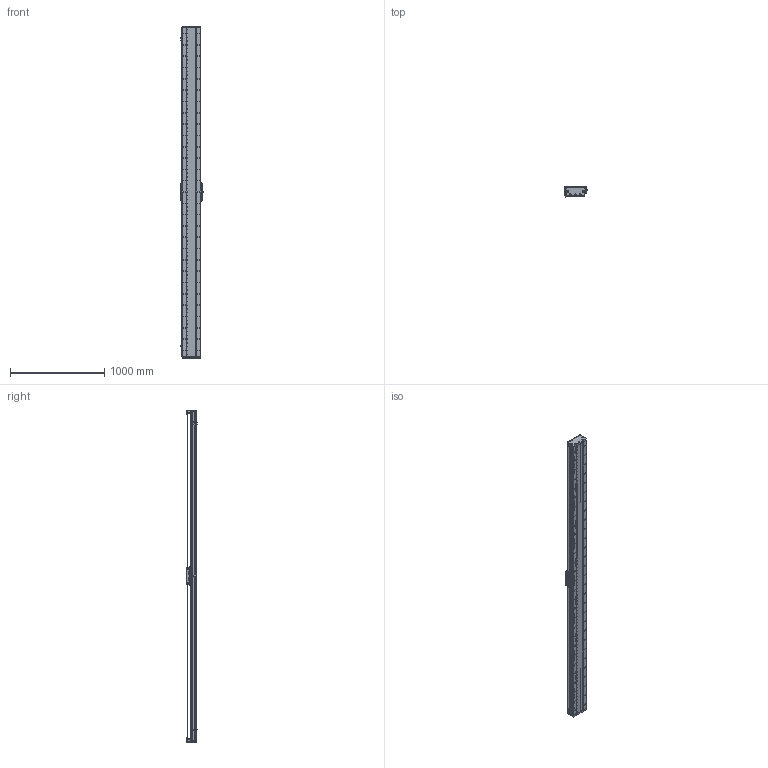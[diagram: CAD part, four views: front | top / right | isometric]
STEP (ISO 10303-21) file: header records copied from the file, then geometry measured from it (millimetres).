
FILE_DESCRIPTION (( 'STEP AP203' ), '1' );
FILE_NAME ('DA-C195-C2-T3240-C010-0.2 眻盄萇儂.STEP', '2025-08-15T01:18:37', ( '' ), ( '' ), 'SwSTEP 2.0', 'SolidWorks 2019', '' );
FILE_SCHEMA (( 'CONFIG_CONTROL_DESIGN' ));
Length unit declared in the file: millimetre
Products named in the file (15): MS200 棠掑喜S315-T1740; IU-CU195-L 菁釱絳寢; DA195詩湍郪璃; 葩璃 DA95-GT-T-00; DA-C195-GD-DB-H-00 傷啣; DA-C195-C2-T3240-C010-0.2 眻盄萇儂; LMT黍杅芛; IU-CU195-L-00 菁釱(L3480); DA195詩湍裔啣; DA195詩湍菜輸; PM-T45ㄗ侂狟ㄘ; CU195-C2賑輸-俋楷; DA195詩湍嶺輸; DA165-GYP-00 光电感应片(默认); DA95-HXJ-00 遣喳砎蝶
Assembly tree (29 placements, depth 3):
  DA-C195-C2-T3240-C010-0.2 眻盄萇儂
    DA195詩湍郪璃
      DA195詩湍菜輸  x2
      DA195詩湍裔啣
      DA195詩湍嶺輸  x2
      DA95-HXJ-00 遣喳砎蝶  x8
      DA-C195-GD-DB-H-00 傷啣  x2
    IU-CU195-L 菁釱絳寢
      IU-CU195-L-00 菁釱(L3480)
      葩璃 DA95-GT-T-00  x4
    LMT黍杅芛
    MS200 棠掑喜S315-T1740
    PM-T45ㄗ侂狟ㄘ  x3
    DA165-GYP-00 光电感应片(默认)
    CU195-C2賑輸-俋楷
Bounding box: 248 x 115.45 x 3520 mm (x, y, z)
Volume: 19581040.1 mm3; surface area: 5849442.9 mm2
Topology: 66 solids, 130 shells, 4752 faces, 13651 edges, 8647 vertices
Faces by surface type: cylinder 2719, plane 1415, cone 530, torus 52, sphere 36
Entity records: 159387 total; most frequent: CARTESIAN_POINT 45566, ORIENTED_EDGE 24186, DIRECTION 22672, EDGE_CURVE 12093, AXIS2_PLACEMENT_3D 8541, VERTEX_POINT 7849, LINE 5590, VECTOR 5590
